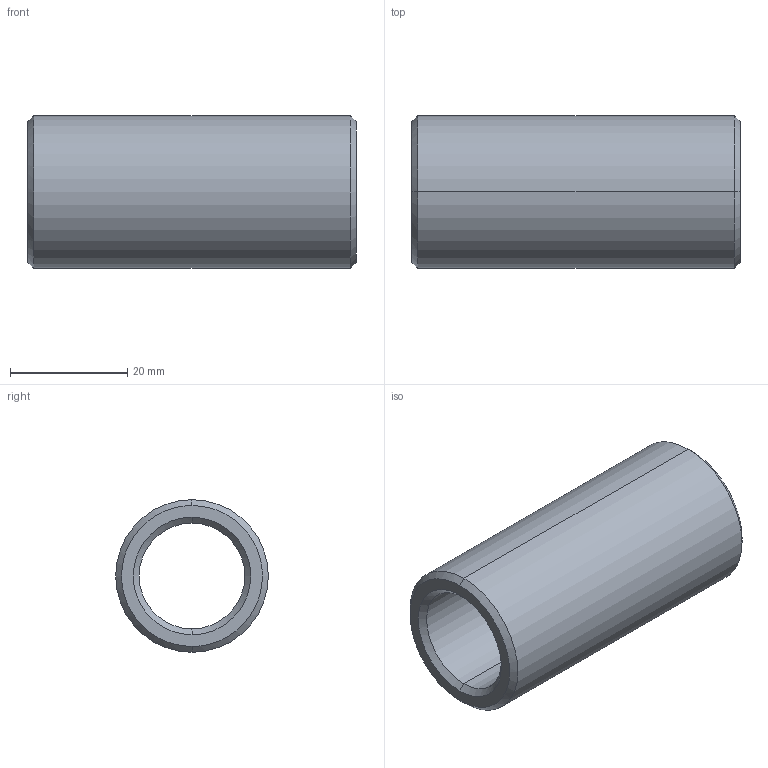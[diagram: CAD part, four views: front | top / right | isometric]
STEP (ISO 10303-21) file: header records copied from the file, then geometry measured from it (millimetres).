
FILE_DESCRIPTION(('CATIA V5 STEP Exchange'),'2;1');
FILE_NAME('C:\Users\Utente\Desktop\IO LAVORO\3D X SITO CF\X SITO\PLASTICA\352\352-18X56.stp','2021-04-12T15:39:46+00:00',('none'),('none'),'CATIA Version 5 Release 20 GA (IN-10)','CATIA V5 STEP AP203','none');
FILE_SCHEMA(('CONFIG_CONTROL_DESIGN'));
Length unit declared in the file: millimetre
Products named in the file (1): 352-18X56
Bounding box: 56 x 26 x 26 mm (x, y, z)
Volume: 15360.4 mm3; surface area: 8139.9 mm2
Topology: 1 solids, 1 shells, 14 faces, 44 edges, 32 vertices
Faces by surface type: cone 6, cylinder 4, plane 2, torus 2
Entity records: 634 total; most frequent: CARTESIAN_POINT 203, ORIENTED_EDGE 88, DIRECTION 64, EDGE_CURVE 44, AXIS2_PLACEMENT_3D 41, VERTEX_POINT 32, CIRCLE 26, EDGE_LOOP 16
